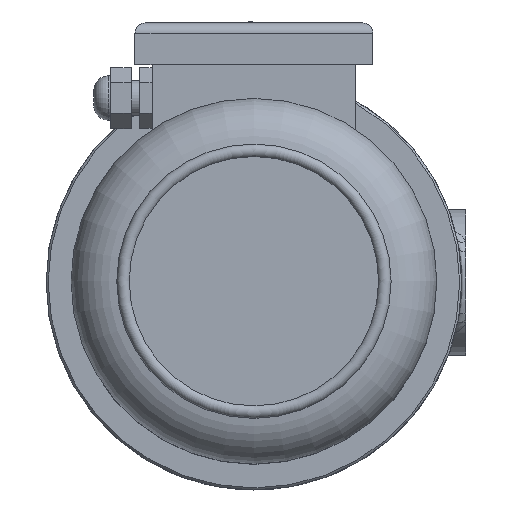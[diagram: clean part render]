
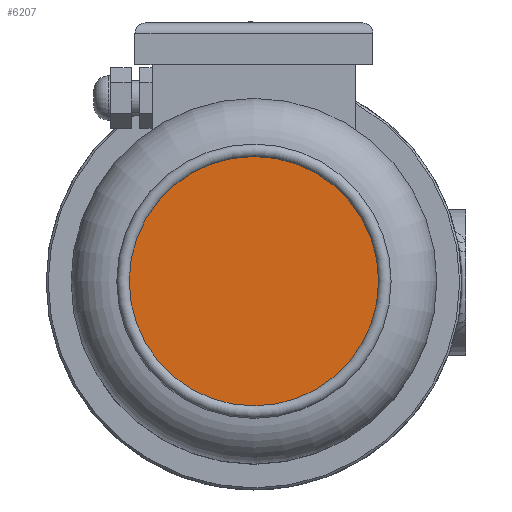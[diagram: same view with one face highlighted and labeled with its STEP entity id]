
A CAD part, top view. The second image highlights one B-rep face of the part: STEP entity #6207.
In plain terms, the highlighted planar face has unit normal (0, 0, 1).
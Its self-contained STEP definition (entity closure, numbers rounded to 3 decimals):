
#419=CIRCLE('',#6748,60.);
#1251=ORIENTED_EDGE('',*,*,#3038,.F.);
#3038=EDGE_CURVE('',#3934,#3934,#419,.T.);
#3934=VERTEX_POINT('',#10696);
#5187=EDGE_LOOP('',(#1251));
#5659=FACE_BOUND('',#5187,.T.);
#6002=PLANE('',#6749);
#6207=ADVANCED_FACE('',(#5659),#6002,.T.);
#6748=AXIS2_PLACEMENT_3D('',#10695,#7715,#7716);
#6749=AXIS2_PLACEMENT_3D('',#10697,#7717,#7718);
#7715=DIRECTION('',(0.,0.,-1.));
#7716=DIRECTION('',(-1.,0.,0.));
#7717=DIRECTION('',(0.,0.,1.));
#7718=DIRECTION('',(1.,0.,0.));
#10695=CARTESIAN_POINT('',(0.,0.,599.584));
#10696=CARTESIAN_POINT('',(-60.,0.,599.584));
#10697=CARTESIAN_POINT('',(-60.,0.,599.584));
